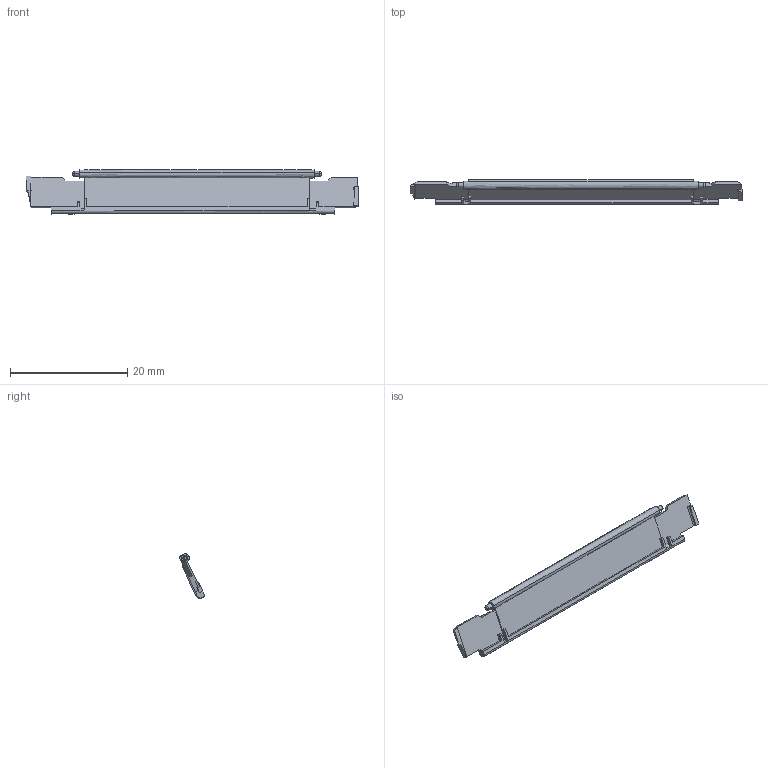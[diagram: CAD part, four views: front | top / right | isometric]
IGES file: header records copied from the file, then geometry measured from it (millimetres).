
Start section:  PTC IGES file: pcmcia_flip_prt.igs
Global section: file name: pcmcia_flip_prt.igs; native system: Pro/ENGINEER by Parametric Technology Corporation; preprocessor: 2000030; author: ECaille; organization: Unknown; date: 000803.092128; units: millimetre
Bounding box: 56.7 x 4.21 x 7.57 mm (x, y, z)
Surface area: 1022.3 mm2 (no closed solid volume)
Topology: 0 solids, 0 shells, 87 faces, 785 edges, 1094 vertices
Faces by surface type: bspline 63, revolution 23, extrusion 1
